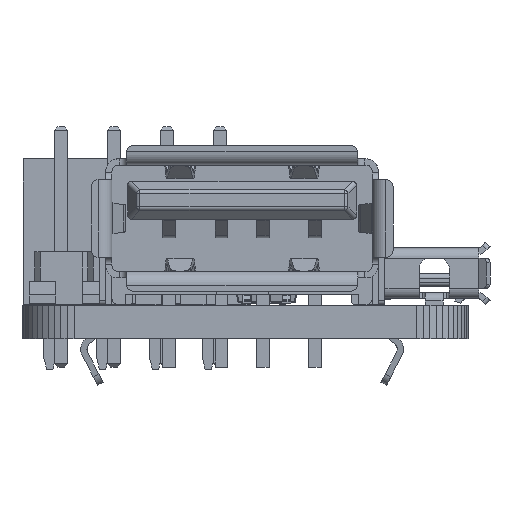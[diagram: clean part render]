
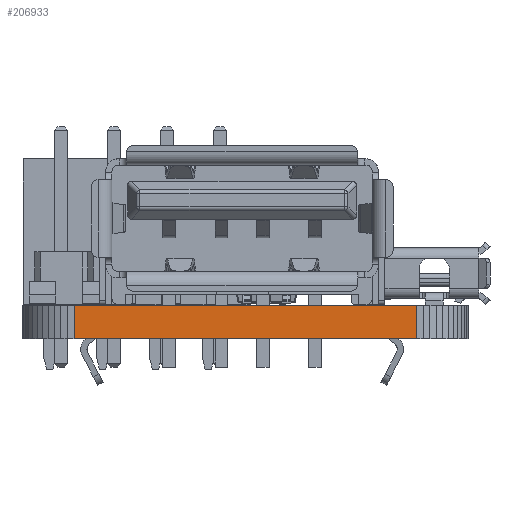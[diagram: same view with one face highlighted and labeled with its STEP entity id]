
A CAD part, front view. The second image highlights one B-rep face of the part: STEP entity #206933.
In plain terms, the highlighted planar face has unit normal (0, -1, 0).
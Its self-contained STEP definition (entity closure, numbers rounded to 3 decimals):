
#196980 = PLANE('',#196981);
#196981 = AXIS2_PLACEMENT_3D('',#196982,#196983,#196984);
#196982 = CARTESIAN_POINT('',(63.31,-77.468,1.6));
#196983 = DIRECTION('',(-0.,-0.,-1.));
#196984 = DIRECTION('',(-1.,0.,0.));
#197034 = PLANE('',#197035);
#197035 = AXIS2_PLACEMENT_3D('',#197036,#197037,#197038);
#197036 = CARTESIAN_POINT('',(63.31,-77.468,0.));
#197037 = DIRECTION('',(-0.,-0.,-1.));
#197038 = DIRECTION('',(-1.,0.,0.));
#198879 = VERTEX_POINT('',#198880);
#198880 = CARTESIAN_POINT('',(71.517,-93.798,0.));
#198894 = PLANE('',#198895);
#198895 = AXIS2_PLACEMENT_3D('',#198896,#198897,#198898);
#198896 = CARTESIAN_POINT('',(71.844,-93.777,0.));
#198897 = DIRECTION('',(0.065,-0.998,0.));
#198898 = DIRECTION('',(-0.998,-0.065,0.));
#198906 = EDGE_CURVE('',#198879,#198907,#198909,.T.);
#198907 = VERTEX_POINT('',#198908);
#198908 = CARTESIAN_POINT('',(55.069,-93.798,0.));
#198909 = SURFACE_CURVE('',#198910,(#198914,#198921),.PCURVE_S1.);
#198910 = LINE('',#198911,#198912);
#198911 = CARTESIAN_POINT('',(71.517,-93.798,0.));
#198912 = VECTOR('',#198913,1.);
#198913 = DIRECTION('',(-1.,0.,0.));
#198914 = PCURVE('',#197034,#198915);
#198915 = DEFINITIONAL_REPRESENTATION('',(#198916),#198920);
#198916 = LINE('',#198917,#198918);
#198917 = CARTESIAN_POINT('',(-8.208,-16.33));
#198918 = VECTOR('',#198919,1.);
#198919 = DIRECTION('',(1.,0.));
#198920 = ( GEOMETRIC_REPRESENTATION_CONTEXT(2) 
PARAMETRIC_REPRESENTATION_CONTEXT() REPRESENTATION_CONTEXT('2D SPACE',''
  ) );
#198921 = PCURVE('',#198922,#198927);
#198922 = PLANE('',#198923);
#198923 = AXIS2_PLACEMENT_3D('',#198924,#198925,#198926);
#198924 = CARTESIAN_POINT('',(71.517,-93.798,0.));
#198925 = DIRECTION('',(0.,-1.,0.));
#198926 = DIRECTION('',(-1.,0.,0.));
#198927 = DEFINITIONAL_REPRESENTATION('',(#198928),#198932);
#198928 = LINE('',#198929,#198930);
#198929 = CARTESIAN_POINT('',(0.,-0.));
#198930 = VECTOR('',#198931,1.);
#198931 = DIRECTION('',(1.,0.));
#198932 = ( GEOMETRIC_REPRESENTATION_CONTEXT(2) 
PARAMETRIC_REPRESENTATION_CONTEXT() REPRESENTATION_CONTEXT('2D SPACE',''
  ) );
#198950 = PLANE('',#198951);
#198951 = AXIS2_PLACEMENT_3D('',#198952,#198953,#198954);
#198952 = CARTESIAN_POINT('',(55.069,-93.798,0.));
#198953 = DIRECTION('',(-0.065,-0.998,0.));
#198954 = DIRECTION('',(-0.998,0.065,0.));
#203584 = VERTEX_POINT('',#203585);
#203585 = CARTESIAN_POINT('',(71.517,-93.798,1.6));
#203606 = EDGE_CURVE('',#203584,#203607,#203609,.T.);
#203607 = VERTEX_POINT('',#203608);
#203608 = CARTESIAN_POINT('',(55.069,-93.798,1.6));
#203609 = SURFACE_CURVE('',#203610,(#203614,#203621),.PCURVE_S1.);
#203610 = LINE('',#203611,#203612);
#203611 = CARTESIAN_POINT('',(71.517,-93.798,1.6));
#203612 = VECTOR('',#203613,1.);
#203613 = DIRECTION('',(-1.,0.,0.));
#203614 = PCURVE('',#196980,#203615);
#203615 = DEFINITIONAL_REPRESENTATION('',(#203616),#203620);
#203616 = LINE('',#203617,#203618);
#203617 = CARTESIAN_POINT('',(-8.208,-16.33));
#203618 = VECTOR('',#203619,1.);
#203619 = DIRECTION('',(1.,0.));
#203620 = ( GEOMETRIC_REPRESENTATION_CONTEXT(2) 
PARAMETRIC_REPRESENTATION_CONTEXT() REPRESENTATION_CONTEXT('2D SPACE',''
  ) );
#203621 = PCURVE('',#198922,#203622);
#203622 = DEFINITIONAL_REPRESENTATION('',(#203623),#203627);
#203623 = LINE('',#203624,#203625);
#203624 = CARTESIAN_POINT('',(0.,-1.6));
#203625 = VECTOR('',#203626,1.);
#203626 = DIRECTION('',(1.,0.));
#203627 = ( GEOMETRIC_REPRESENTATION_CONTEXT(2) 
PARAMETRIC_REPRESENTATION_CONTEXT() REPRESENTATION_CONTEXT('2D SPACE',''
  ) );
#206883 = EDGE_CURVE('',#198907,#203607,#206884,.T.);
#206884 = SURFACE_CURVE('',#206885,(#206889,#206896),.PCURVE_S1.);
#206885 = LINE('',#206886,#206887);
#206886 = CARTESIAN_POINT('',(55.069,-93.798,0.));
#206887 = VECTOR('',#206888,1.);
#206888 = DIRECTION('',(0.,0.,1.));
#206889 = PCURVE('',#198950,#206890);
#206890 = DEFINITIONAL_REPRESENTATION('',(#206891),#206895);
#206891 = LINE('',#206892,#206893);
#206892 = CARTESIAN_POINT('',(0.,0.));
#206893 = VECTOR('',#206894,1.);
#206894 = DIRECTION('',(0.,-1.));
#206895 = ( GEOMETRIC_REPRESENTATION_CONTEXT(2) 
PARAMETRIC_REPRESENTATION_CONTEXT() REPRESENTATION_CONTEXT('2D SPACE',''
  ) );
#206896 = PCURVE('',#198922,#206897);
#206897 = DEFINITIONAL_REPRESENTATION('',(#206898),#206902);
#206898 = LINE('',#206899,#206900);
#206899 = CARTESIAN_POINT('',(16.449,0.));
#206900 = VECTOR('',#206901,1.);
#206901 = DIRECTION('',(0.,-1.));
#206902 = ( GEOMETRIC_REPRESENTATION_CONTEXT(2) 
PARAMETRIC_REPRESENTATION_CONTEXT() REPRESENTATION_CONTEXT('2D SPACE',''
  ) );
#206933 = ADVANCED_FACE('',(#206934),#198922,.T.);
#206934 = FACE_BOUND('',#206935,.T.);
#206935 = EDGE_LOOP('',(#206936,#206957,#206958,#206959));
#206936 = ORIENTED_EDGE('',*,*,#206937,.T.);
#206937 = EDGE_CURVE('',#198879,#203584,#206938,.T.);
#206938 = SURFACE_CURVE('',#206939,(#206943,#206950),.PCURVE_S1.);
#206939 = LINE('',#206940,#206941);
#206940 = CARTESIAN_POINT('',(71.517,-93.798,0.));
#206941 = VECTOR('',#206942,1.);
#206942 = DIRECTION('',(0.,0.,1.));
#206943 = PCURVE('',#198922,#206944);
#206944 = DEFINITIONAL_REPRESENTATION('',(#206945),#206949);
#206945 = LINE('',#206946,#206947);
#206946 = CARTESIAN_POINT('',(0.,-0.));
#206947 = VECTOR('',#206948,1.);
#206948 = DIRECTION('',(0.,-1.));
#206949 = ( GEOMETRIC_REPRESENTATION_CONTEXT(2) 
PARAMETRIC_REPRESENTATION_CONTEXT() REPRESENTATION_CONTEXT('2D SPACE',''
  ) );
#206950 = PCURVE('',#198894,#206951);
#206951 = DEFINITIONAL_REPRESENTATION('',(#206952),#206956);
#206952 = LINE('',#206953,#206954);
#206953 = CARTESIAN_POINT('',(0.327,0.));
#206954 = VECTOR('',#206955,1.);
#206955 = DIRECTION('',(0.,-1.));
#206956 = ( GEOMETRIC_REPRESENTATION_CONTEXT(2) 
PARAMETRIC_REPRESENTATION_CONTEXT() REPRESENTATION_CONTEXT('2D SPACE',''
  ) );
#206957 = ORIENTED_EDGE('',*,*,#203606,.T.);
#206958 = ORIENTED_EDGE('',*,*,#206883,.F.);
#206959 = ORIENTED_EDGE('',*,*,#198906,.F.);
